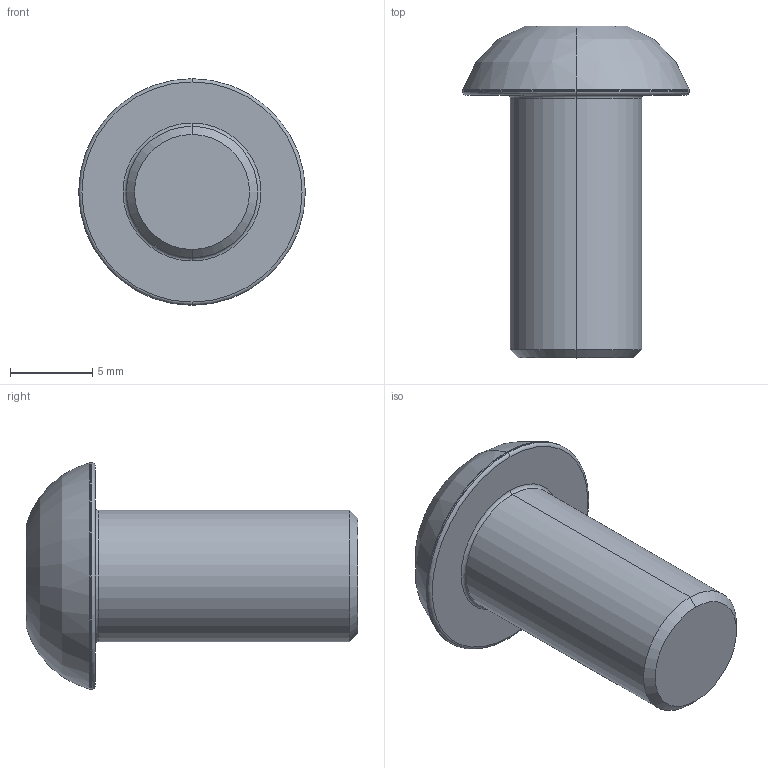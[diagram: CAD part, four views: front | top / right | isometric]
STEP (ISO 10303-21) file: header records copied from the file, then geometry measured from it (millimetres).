
FILE_DESCRIPTION (( 'STEP AP203' ), '1' );
FILE_NAME ('LGDD-TD-M8x16.STEP', '2026-08-14T02:02:46', ( '' ), ( '' ), 'SwSTEP 2.0', 'SolidWorks 2020', '' );
FILE_SCHEMA (( 'CONFIG_CONTROL_DESIGN' ));
Length unit declared in the file: millimetre
Products named in the file (1): LGDD-TD-M8x16
Bounding box: 13.8 x 20.2 x 13.8 mm (x, y, z)
Volume: 1177.9 mm3; surface area: 832.1 mm2
Topology: 1 solids, 1 shells, 31 faces, 59 edges, 32 vertices
Faces by surface type: plane 10, cone 9, torus 8, cylinder 4
Entity records: 860 total; most frequent: CARTESIAN_POINT 150, DIRECTION 149, ORIENTED_EDGE 118, AXIS2_PLACEMENT_3D 65, EDGE_CURVE 59, EDGE_LOOP 33, CIRCLE 33, VERTEX_POINT 32
